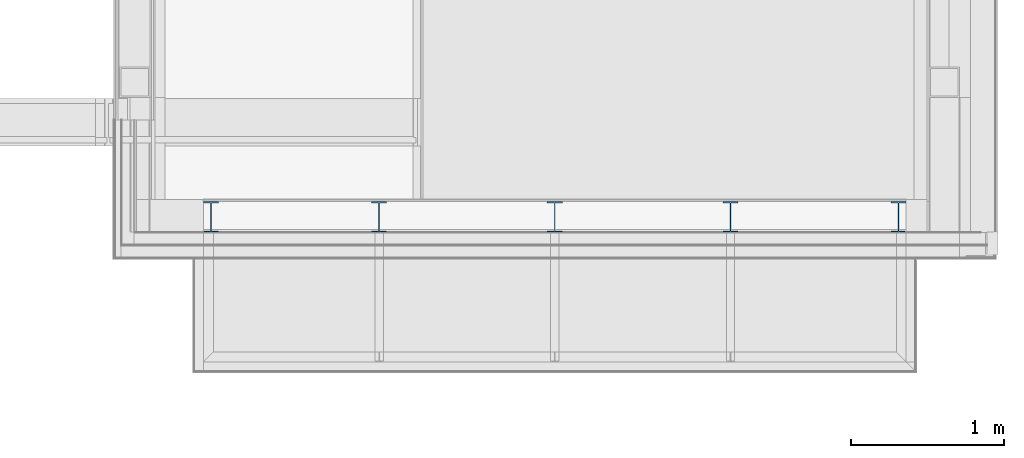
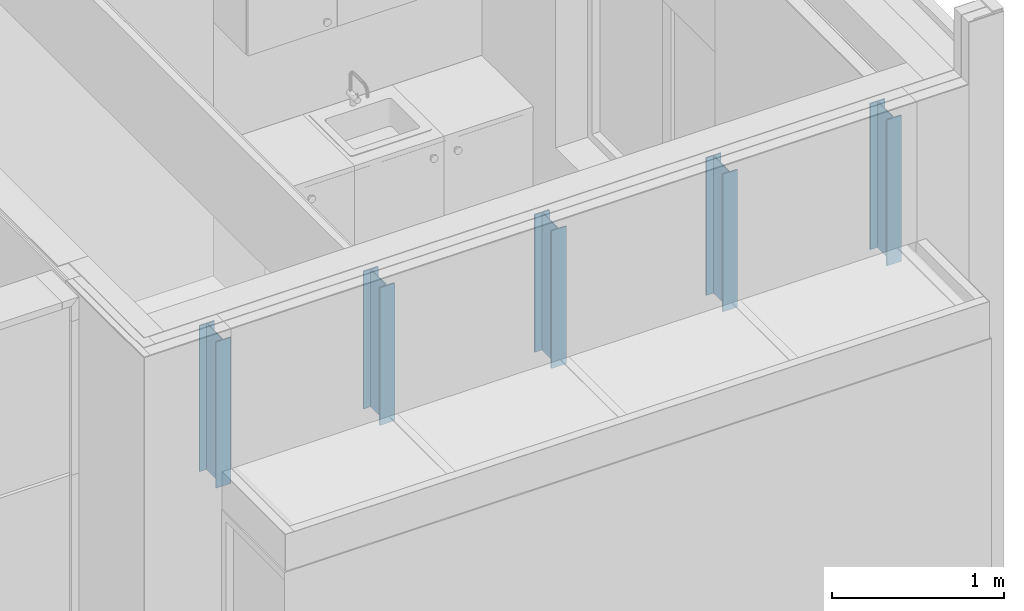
# One storey, part 7 of 137: 5 columns.
"""IFC2X3 building model written with IfcOpenShell, lengths in millimetres."""

from ifc_helpers import new_model, entity, si_unit, converted_unit, derived_unit, money_unit, direction, frame, origin_with_axes, place, context, subcontext, project, spatial, faceted_brep, material, type_object, element, save


model = new_model("IFC2X3")

# Units and contexts
model_context = context("Model", 3, precision=0.01, world=origin_with_axes(), true_north=direction((0.0, 1.0)))
body_context = subcontext(model_context, "Body", "Model", "MODEL_VIEW")
ifc_project = project(units=[si_unit("LENGTHUNIT", "METRE", prefix="MILLI"), si_unit("AREAUNIT", "SQUARE_METRE"), si_unit("VOLUMEUNIT", "CUBIC_METRE"), converted_unit("PLANEANGLEUNIT", "DEGREE", entity("IfcPlaneAngleMeasure", 0.0174532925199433), si_unit("PLANEANGLEUNIT", "RADIAN"), dimensions=[0, 0, 0, 0, 0, 0, 0]), money_unit("EUR"), converted_unit("TIMEUNIT", "Year", entity("IfcTimeMeasure", 31556926.0), si_unit("TIMEUNIT", "SECOND"), dimensions=[0, 0, 1, 0, 0, 0, 0]), si_unit("MASSUNIT", "GRAM", prefix="KILO"), si_unit("THERMODYNAMICTEMPERATUREUNIT", "DEGREE_CELSIUS"), si_unit("LUMINOUSINTENSITYUNIT", "LUMEN"), si_unit("ENERGYUNIT", "JOULE", prefix="MEGA"), derived_unit("THERMALCONDUCTANCEUNIT", [(si_unit("POWERUNIT", "WATT"), 1), (si_unit("LENGTHUNIT", "METRE"), -1), (si_unit("THERMODYNAMICTEMPERATUREUNIT", "KELVIN"), -1)]), derived_unit("SPECIFICHEATCAPACITYUNIT", [(si_unit("ENERGYUNIT", "JOULE"), 1), (si_unit("MASSUNIT", "GRAM", prefix="KILO"), -1), (si_unit("THERMODYNAMICTEMPERATUREUNIT", "KELVIN"), -1)]), derived_unit("MASSDENSITYUNIT", [(si_unit("MASSUNIT", "GRAM", prefix="KILO"), 1), (si_unit("VOLUMEUNIT", "CUBIC_METRE"), -1)])], contexts=[model_context])

# Site, building, storey
site_placement = place(None, origin_with_axes())
site = spatial("IfcSite", under=ifc_project, at=site_placement, Name="Site", CompositionType="ELEMENT")
building_placement = place(site_placement, origin_with_axes())
building = spatial("IfcBuilding", under=site, at=building_placement, Name="Naam gebouw", CompositionType="ELEMENT")
storey_placement = place(building_placement, frame((0.0, 0.0, 3960.0), z_axis=(0.0, 0.0, 1.0), x_axis=(1.0, 0.0, 0.0)))
storey = spatial("IfcBuildingStorey", under=building, at=storey_placement, Name="1e verdieping", CompositionType="ELEMENT", Elevation=3960.0)

# Columns
ifc_material = material(Name="Metaal - Staal C")
column_type = type_object("IfcColumnType", Name="IPE200 100 x 200", PredefinedType="COLUMN")
column_1_placement = place(storey_placement, frame((28399.99999999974, 3699.999999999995, 2683.5), z_axis=(0.0, 0.0, 1.0), x_axis=(1.0, 0.0, 0.0)))
element("IfcColumn", 1, at=column_1_placement, inside=storey, type_object=column_type, material=ifc_material, Name="28_Kolom-x", ObjectType="COLUMN", context=body_context, shape_type="Brep", body=[
    faceted_brep([(-50.00000000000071, 100.0000000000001, 976.4999999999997), (-50.00000000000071, 100.0000000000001, 0.0), (-50.00000000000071, 91.49999999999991, 0.0), (-50.00000000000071, 91.49999999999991, 976.4999999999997), (50.00000000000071, 100.0000000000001, 976.4999999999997), (50.00000000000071, 100.0000000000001, 0.0), (50.00000000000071, 91.49999999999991, 0.0), (2.80000000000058, 91.49999999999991, 0.0), (2.80000000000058, -91.49999999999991, 0.0), (50.00000000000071, -91.49999999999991, 0.0), (50.00000000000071, -100.0000000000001, 0.0), (-50.00000000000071, -100.0000000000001, 0.0), (-50.00000000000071, -91.49999999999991, 0.0), (-2.80000000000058, -91.49999999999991, 0.0), (-2.80000000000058, 91.49999999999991, 0.0), (-2.80000000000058, 91.49999999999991, 976.4999999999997), (-2.80000000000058, -91.49999999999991, 976.4999999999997), (-50.00000000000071, -91.49999999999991, 976.4999999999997), (-50.00000000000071, -100.0000000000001, 976.4999999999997), (50.00000000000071, -100.0000000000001, 976.4999999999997), (50.00000000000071, -91.49999999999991, 976.4999999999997), (2.80000000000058, -91.49999999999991, 976.4999999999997), (2.80000000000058, 91.49999999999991, 976.4999999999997), (50.00000000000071, 91.49999999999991, 976.4999999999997)], [[[0, 1, 2, 3]], [[4, 5, 1, 0]], [[2, 1, 5, 6, 7, 8, 9, 10, 11, 12, 13, 14]], [[3, 2, 14, 15]], [[4, 0, 3, 15, 16, 17, 18, 19, 20, 21, 22, 23]], [[23, 6, 5, 4]], [[22, 7, 6, 23]], [[21, 8, 7, 22]], [[20, 9, 8, 21]], [[19, 10, 9, 20]], [[18, 11, 10, 19]], [[17, 12, 11, 18]], [[16, 13, 12, 17]], [[15, 14, 13, 16]]]),
])
column_2_placement = place(storey_placement, frame((29499.99999999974, 3699.999999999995, 2623.499999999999), z_axis=(0.0, 0.0, 1.0), x_axis=(1.0, 0.0, 0.0)))
element("IfcColumn", 2, at=column_2_placement, inside=storey, type_object=column_type, material=ifc_material, Name="28_Kolom-x", ObjectType="COLUMN", context=body_context, shape_type="Brep", body=[
    faceted_brep([(-50.00000000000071, 100.0000000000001, 1036.5), (-50.00000000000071, 100.0000000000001, 0.0), (-50.00000000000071, 91.49999999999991, 0.0), (-50.00000000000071, 91.49999999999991, 1036.5), (50.00000000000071, 100.0000000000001, 1036.5), (50.00000000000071, 100.0000000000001, 0.0), (50.00000000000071, 91.49999999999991, 0.0), (2.80000000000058, 91.49999999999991, 0.0), (2.80000000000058, -91.49999999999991, 0.0), (50.00000000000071, -91.49999999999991, 0.0), (50.00000000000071, -100.0000000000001, 0.0), (-50.00000000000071, -100.0000000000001, 0.0), (-50.00000000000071, -91.49999999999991, 0.0), (-2.80000000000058, -91.49999999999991, 0.0), (-2.80000000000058, 91.49999999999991, 0.0), (-2.80000000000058, 91.49999999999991, 1036.5), (-2.80000000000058, -91.49999999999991, 1036.5), (-50.00000000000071, -91.49999999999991, 1036.5), (-50.00000000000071, -100.0000000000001, 1036.5), (50.00000000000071, -100.0000000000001, 1036.5), (50.00000000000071, -91.49999999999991, 1036.5), (2.80000000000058, -91.49999999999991, 1036.5), (2.80000000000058, 91.49999999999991, 1036.5), (50.00000000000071, 91.49999999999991, 1036.5)], [[[0, 1, 2, 3]], [[4, 5, 1, 0]], [[2, 1, 5, 6, 7, 8, 9, 10, 11, 12, 13, 14]], [[3, 2, 14, 15]], [[4, 0, 3, 15, 16, 17, 18, 19, 20, 21, 22, 23]], [[23, 6, 5, 4]], [[22, 7, 6, 23]], [[21, 8, 7, 22]], [[20, 9, 8, 21]], [[19, 10, 9, 20]], [[18, 11, 10, 19]], [[17, 12, 11, 18]], [[16, 13, 12, 17]], [[15, 14, 13, 16]]]),
])
column_3_placement = place(storey_placement, frame((26099.99903943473, 3699.999999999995, 2683.5), z_axis=(0.0, 0.0, 1.0), x_axis=(1.0, 0.0, 0.0)))
element("IfcColumn", 3, at=column_3_placement, inside=storey, type_object=column_type, material=ifc_material, Name="28_Kolom-x", ObjectType="COLUMN", context=body_context, shape_type="Brep", body=[
    faceted_brep([(-50.00000000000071, 100.0000000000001, 976.4999999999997), (-50.00000000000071, 100.0000000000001, 0.0), (-50.00000000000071, 91.49999999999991, 0.0), (-50.00000000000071, 91.49999999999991, 976.4999999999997), (50.00000000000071, 100.0000000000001, 976.4999999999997), (50.00000000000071, 100.0000000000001, 0.0), (50.00000000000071, 91.49999999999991, 0.0), (2.80000000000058, 91.49999999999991, 0.0), (2.80000000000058, -91.49999999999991, 0.0), (50.00000000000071, -91.49999999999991, 0.0), (50.00000000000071, -100.0000000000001, 0.0), (-50.00000000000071, -100.0000000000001, 0.0), (-50.00000000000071, -91.49999999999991, 0.0), (-2.80000000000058, -91.49999999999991, 0.0), (-2.80000000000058, 91.49999999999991, 0.0), (-2.80000000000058, 91.49999999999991, 976.4999999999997), (-2.80000000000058, -91.49999999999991, 976.4999999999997), (-50.00000000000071, -91.49999999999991, 976.4999999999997), (-50.00000000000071, -100.0000000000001, 976.4999999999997), (50.00000000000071, -100.0000000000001, 976.4999999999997), (50.00000000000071, -91.49999999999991, 976.4999999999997), (2.80000000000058, -91.49999999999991, 976.4999999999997), (2.80000000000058, 91.49999999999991, 976.4999999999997), (50.00000000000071, 91.49999999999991, 976.4999999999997)], [[[0, 1, 2, 3]], [[4, 5, 1, 0]], [[2, 1, 5, 6, 7, 8, 9, 10, 11, 12, 13, 14]], [[3, 2, 14, 15]], [[4, 0, 3, 15, 16, 17, 18, 19, 20, 21, 22, 23]], [[23, 6, 5, 4]], [[22, 7, 6, 23]], [[21, 8, 7, 22]], [[20, 9, 8, 21]], [[19, 10, 9, 20]], [[18, 11, 10, 19]], [[17, 12, 11, 18]], [[16, 13, 12, 17]], [[15, 14, 13, 16]]]),
])
column_4_placement = place(storey_placement, frame((24999.99903943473, 3699.999999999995, 2623.499999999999), z_axis=(0.0, 0.0, 1.0), x_axis=(1.0, 0.0, 0.0)))
element("IfcColumn", 4, at=column_4_placement, inside=storey, type_object=column_type, material=ifc_material, Name="28_Kolom-x", ObjectType="COLUMN", context=body_context, shape_type="Brep", body=[
    faceted_brep([(-50.00000000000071, 100.0000000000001, 1036.5), (-50.00000000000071, 100.0000000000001, 0.0), (-50.00000000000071, 91.49999999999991, 0.0), (-50.00000000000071, 91.49999999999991, 1036.5), (50.00000000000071, 100.0000000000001, 1036.5), (50.00000000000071, 100.0000000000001, 0.0), (50.00000000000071, 91.49999999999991, 0.0), (2.80000000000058, 91.49999999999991, 0.0), (2.80000000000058, -91.49999999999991, 0.0), (50.00000000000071, -91.49999999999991, 0.0), (50.00000000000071, -100.0000000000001, 0.0), (-50.00000000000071, -100.0000000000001, 0.0), (-50.00000000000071, -91.49999999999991, 0.0), (-2.80000000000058, -91.49999999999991, 0.0), (-2.80000000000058, 91.49999999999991, 0.0), (-2.80000000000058, 91.49999999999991, 1036.5), (-2.80000000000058, -91.49999999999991, 1036.5), (-50.00000000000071, -91.49999999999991, 1036.5), (-50.00000000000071, -100.0000000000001, 1036.5), (50.00000000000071, -100.0000000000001, 1036.5), (50.00000000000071, -91.49999999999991, 1036.5), (2.80000000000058, -91.49999999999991, 1036.5), (2.80000000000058, 91.49999999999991, 1036.5), (50.00000000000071, 91.49999999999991, 1036.5)], [[[0, 1, 2, 3]], [[4, 5, 1, 0]], [[2, 1, 5, 6, 7, 8, 9, 10, 11, 12, 13, 14]], [[3, 2, 14, 15]], [[4, 0, 3, 15, 16, 17, 18, 19, 20, 21, 22, 23]], [[23, 6, 5, 4]], [[22, 7, 6, 23]], [[21, 8, 7, 22]], [[20, 9, 8, 21]], [[19, 10, 9, 20]], [[18, 11, 10, 19]], [[17, 12, 11, 18]], [[16, 13, 12, 17]], [[15, 14, 13, 16]]]),
])
column_5_placement = place(storey_placement, frame((27249.99903943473, 3699.999999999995, 2683.5), z_axis=(0.0, 0.0, 1.0), x_axis=(1.0, 0.0, 0.0)))
element("IfcColumn", 5, at=column_5_placement, inside=storey, type_object=column_type, material=ifc_material, Name="28_Kolom-x", ObjectType="COLUMN", context=body_context, shape_type="Brep", body=[
    faceted_brep([(-50.00000000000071, 100.0000000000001, 976.4999999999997), (-50.00000000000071, 100.0000000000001, 0.0), (-50.00000000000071, 91.49999999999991, 0.0), (-50.00000000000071, 91.49999999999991, 976.4999999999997), (50.00000000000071, 100.0000000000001, 976.4999999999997), (50.00000000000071, 100.0000000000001, 0.0), (50.00000000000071, 91.49999999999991, 0.0), (2.80000000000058, 91.49999999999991, 0.0), (2.80000000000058, -91.49999999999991, 0.0), (50.00000000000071, -91.49999999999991, 0.0), (50.00000000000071, -100.0000000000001, 0.0), (-50.00000000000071, -100.0000000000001, 0.0), (-50.00000000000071, -91.49999999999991, 0.0), (-2.80000000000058, -91.49999999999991, 0.0), (-2.80000000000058, 91.49999999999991, 0.0), (-2.80000000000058, 91.49999999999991, 976.4999999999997), (-2.80000000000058, -91.49999999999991, 976.4999999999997), (-50.00000000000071, -91.49999999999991, 976.4999999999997), (-50.00000000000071, -100.0000000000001, 976.4999999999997), (50.00000000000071, -100.0000000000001, 976.4999999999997), (50.00000000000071, -91.49999999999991, 976.4999999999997), (2.80000000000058, -91.49999999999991, 976.4999999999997), (2.80000000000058, 91.49999999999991, 976.4999999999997), (50.00000000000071, 91.49999999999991, 976.4999999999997)], [[[0, 1, 2, 3]], [[4, 5, 1, 0]], [[2, 1, 5, 6, 7, 8, 9, 10, 11, 12, 13, 14]], [[3, 2, 14, 15]], [[4, 0, 3, 15, 16, 17, 18, 19, 20, 21, 22, 23]], [[23, 6, 5, 4]], [[22, 7, 6, 23]], [[21, 8, 7, 22]], [[20, 9, 8, 21]], [[19, 10, 9, 20]], [[18, 11, 10, 19]], [[17, 12, 11, 18]], [[16, 13, 12, 17]], [[15, 14, 13, 16]]]),
])

save(model, "model.ifc")
